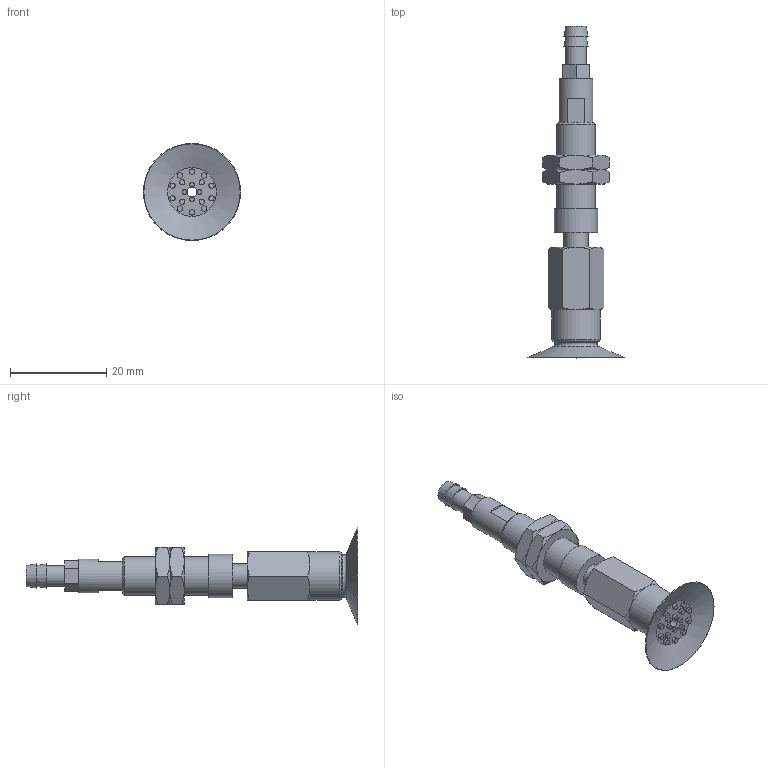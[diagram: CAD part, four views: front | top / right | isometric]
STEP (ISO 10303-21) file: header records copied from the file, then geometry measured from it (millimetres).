
FILE_DESCRIPTION(('STEP AP203'),'1');
FILE_NAME('-T.stp','2025-08-26T08:55:28',(' '),(' '),'Spatial InterOp 3D',' ',' ');
FILE_SCHEMA(('CONFIG_CONTROL_DESIGN'));
Length unit declared in the file: millimetre
Products named in the file (7): BNABPATS-20A-3-※-T; ADAPTER; NAPATS-10A-3--M; NAPATS-20A-3--F; Nut-10A-S; T; BPAG-20A-※_3D
Assembly tree (7 placements, depth 2):
  BNABPATS-20A-3-※-T
    ADAPTER
    NAPATS-10A-3--M
    NAPATS-20A-3--F
    Nut-10A-S  x2
    T
    BPAG-20A-※_3D
Bounding box: 20.19 x 69 x 20.19 mm (x, y, z)
Volume: 3881.9 mm3; surface area: 4928.6 mm2
Topology: 7 solids, 7 shells, 167 faces, 324 edges, 200 vertices
Faces by surface type: plane 71, cone 49, cylinder 37, torus 10
Full cylindrical faces by diameter (mm): 0.9 x4, 1.1 x14, 2 x3, 3 x1, 4 x2, 4.134 x1, 4.3 x1, 5 x3, 6 x2, 7 x1, 7.188 x2, 8 x1, 9 x1, 10 x1
Entity records: 3846 total; most frequent: CARTESIAN_POINT 814, DIRECTION 588, ORIENTED_EDGE 420, AXIS2_PLACEMENT_3D 274, EDGE_LOOP 242, EDGE_CURVE 210, FACE_OUTER_BOUND 190, VERTEX_POINT 164
